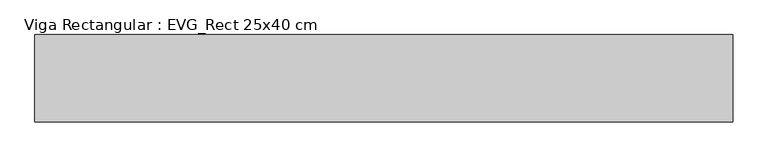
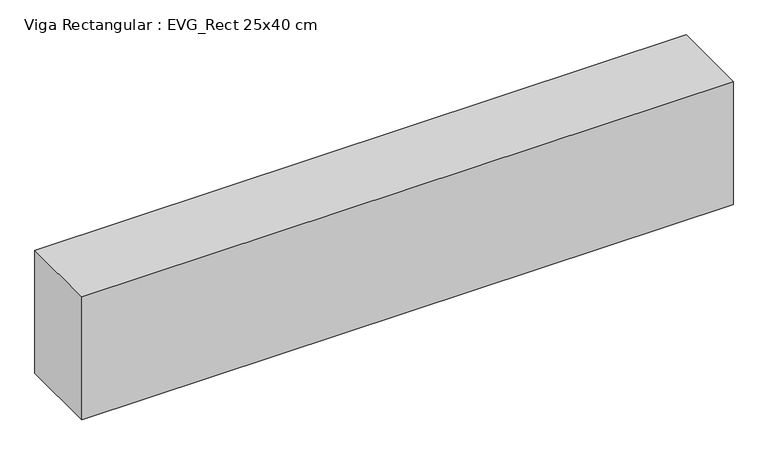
"""IFC4 building model written with IfcOpenShell, lengths in millimetres: beam geometry, Viga Rectangular : EVG_Rect 25x40 cm."""

from ifc_helpers import new_model, si_unit, frame, origin, place, context, project, spatial, polyline, outline, extrude, source, transform, mapped, element, save


def viga_rectangular_evg_rect_25x40_cm_b1d61e0d(model_context):
    return source(origin(), model_context, "Body", "SweptSolid", [
        extrude(outline(polyline([(1000.0, 125.0), (1000.0, -125.0), (-1000.0, -125.0), (-1000.0, 125.0), (1000.0, 125.0)])), frame((0.0, 0.0, -400.0), z_axis=(0.0, 0.0, 1.0), x_axis=(1.0, 0.0, 0.0)), (0.0, 0.0, 1.0), 400.0),
    ])


if __name__ == "__main__":
    model = new_model("IFC4")
    model_context = context("Model", 3, world=origin())
    ifc_project = project(units=[si_unit("LENGTHUNIT", "METRE", prefix="MILLI")], contexts=[model_context])
    site = spatial("IfcSite", under=ifc_project)
    building = spatial("IfcBuilding", under=site)
    placement = place(None, origin())
    viga_rectangular_evg_rect_25x40_cm_shape = viga_rectangular_evg_rect_25x40_cm_b1d61e0d(model_context)
    element("IfcBeam", 1, ObjectType="Viga Rectangular : EVG_Rect 25x40 cm", at=placement, inside=building, context=model_context, shape_type="MappedRepresentation", body=[
        mapped(viga_rectangular_evg_rect_25x40_cm_shape, transform((0.0, 0.0, 0.0), x_axis=(1.0, 0.0, 0.0), y_axis=(0.0, 1.0, 0.0), z_axis=(0.0, 0.0, 1.0))),
    ])
    save(model, "model.ifc")
